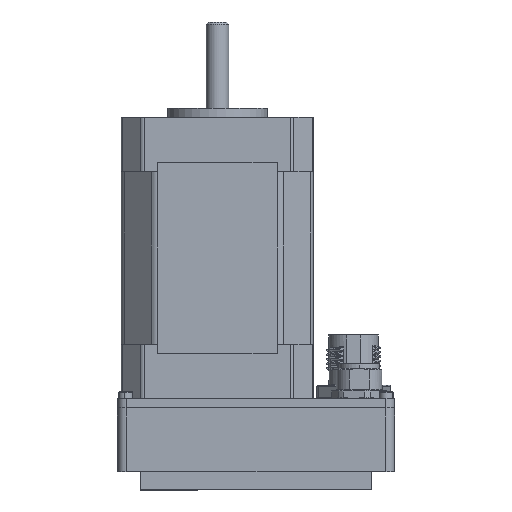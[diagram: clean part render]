
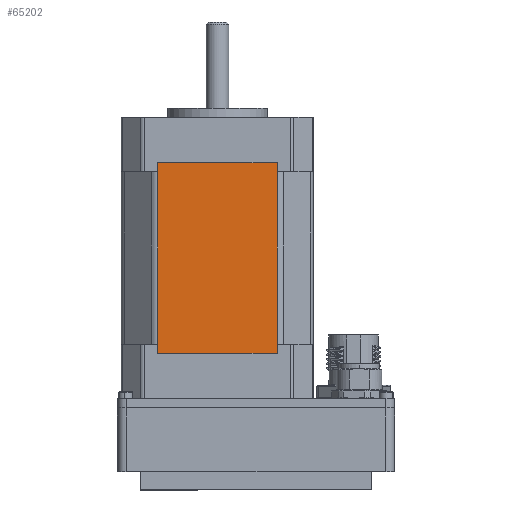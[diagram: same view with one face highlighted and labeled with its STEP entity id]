
A CAD part, top view. The second image highlights one B-rep face of the part: STEP entity #65202.
In plain terms, the highlighted planar face has unit normal (0, 0, 1) as drawn and (0, -1, 0) by its records, which use the part's own axes.
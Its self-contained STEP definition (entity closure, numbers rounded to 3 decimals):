
#511 = EDGE_CURVE ( 'NONE', #68145, #3984, #65905, .T. ) ;
#3008 = VECTOR ( 'NONE', #87536, 1000. ) ;
#3984 = VERTEX_POINT ( 'NONE', #37388 ) ;
#5775 = DIRECTION ( 'NONE',  ( 0., 0., -1. ) ) ;
#5966 = EDGE_CURVE ( 'NONE', #98228, #97304, #67943, .T. ) ;
#8225 = VECTOR ( 'NONE', #5775, 1000. ) ;
#8813 = ORIENTED_EDGE ( 'NONE', *, *, #92846, .F. ) ;
#9367 = ORIENTED_EDGE ( 'NONE', *, *, #66915, .T. ) ;
#12306 = DIRECTION ( 'NONE',  ( 0., 0., -1. ) ) ;
#14063 = VECTOR ( 'NONE', #12306, 1000. ) ;
#14829 = VECTOR ( 'NONE', #61747, 1000. ) ;
#14871 = CARTESIAN_POINT ( 'NONE',  ( -13.14, -21.14, 10. ) ) ;
#20623 = CARTESIAN_POINT ( 'NONE',  ( -13.14, -21.14, 12. ) ) ;
#22049 = CARTESIAN_POINT ( 'NONE',  ( -13.14, -21.14, 52. ) ) ;
#23461 = ORIENTED_EDGE ( 'NONE', *, *, #49959, .T. ) ;
#25852 = VECTOR ( 'NONE', #91201, 1000. ) ;
#26154 = LINE ( 'NONE', #43998, #8225 ) ;
#26749 = EDGE_CURVE ( 'NONE', #93451, #37511, #82112, .T. ) ;
#29723 = DIRECTION ( 'NONE',  ( -1., 0., 0. ) ) ;
#30449 = CARTESIAN_POINT ( 'NONE',  ( 13.14, -21.14, 12. ) ) ;
#31020 = CARTESIAN_POINT ( 'NONE',  ( 13.14, -21.14, 10. ) ) ;
#33652 = DIRECTION ( 'NONE',  ( 0., 0., -1. ) ) ;
#34480 = ORIENTED_EDGE ( 'NONE', *, *, #26749, .T. ) ;
#35735 = CARTESIAN_POINT ( 'NONE',  ( 13.14, -21.14, 52. ) ) ;
#35772 = EDGE_LOOP ( 'NONE', ( #34480, #90071, #80973, #8813, #78855, #9367, #51790, #23461 ) ) ;
#37388 = CARTESIAN_POINT ( 'NONE',  ( 13.14, -21.14, 12. ) ) ;
#37511 = VERTEX_POINT ( 'NONE', #31020 ) ;
#38031 = AXIS2_PLACEMENT_3D ( 'NONE', #22049, #75554, #29723 ) ;
#38206 = VECTOR ( 'NONE', #76274, 1000. ) ;
#40587 = LINE ( 'NONE', #30449, #38206 ) ;
#40760 = CARTESIAN_POINT ( 'NONE',  ( -13.14, -21.14, 50. ) ) ;
#42261 = CARTESIAN_POINT ( 'NONE',  ( 13.14, -21.14, 50. ) ) ;
#43998 = CARTESIAN_POINT ( 'NONE',  ( -13.14, -21.14, 12. ) ) ;
#45436 = CARTESIAN_POINT ( 'NONE',  ( -13.14, -21.14, 10. ) ) ;
#49479 = VERTEX_POINT ( 'NONE', #67797 ) ;
#49959 = EDGE_CURVE ( 'NONE', #97304, #93451, #26154, .T. ) ;
#51790 = ORIENTED_EDGE ( 'NONE', *, *, #5966, .T. ) ;
#55507 = VERTEX_POINT ( 'NONE', #84186 ) ;
#56291 = EDGE_CURVE ( 'NONE', #55507, #49479, #96253, .T. ) ;
#58204 = CARTESIAN_POINT ( 'NONE',  ( -13.14, -21.14, 52. ) ) ;
#59332 = LINE ( 'NONE', #64784, #3008 ) ;
#61747 = DIRECTION ( 'NONE',  ( 1., 0., 0. ) ) ;
#63415 = FACE_OUTER_BOUND ( 'NONE', #35772, .T. ) ;
#63499 = VECTOR ( 'NONE', #33652, 1000. ) ;
#64784 = CARTESIAN_POINT ( 'NONE',  ( -13.14, -21.14, 52. ) ) ;
#65202 = ADVANCED_FACE ( 'NONE', ( #63415 ), #90589, .F. ) ;
#65905 = LINE ( 'NONE', #72126, #63499 ) ;
#66915 = EDGE_CURVE ( 'NONE', #55507, #98228, #59332, .T. ) ;
#67797 = CARTESIAN_POINT ( 'NONE',  ( 13.14, -21.14, 52. ) ) ;
#67943 = LINE ( 'NONE', #58204, #14063 ) ;
#68145 = VERTEX_POINT ( 'NONE', #42261 ) ;
#69375 = CARTESIAN_POINT ( 'NONE',  ( -13.14, -21.14, 52. ) ) ;
#71851 = EDGE_CURVE ( 'NONE', #3984, #37511, #40587, .T. ) ;
#72126 = CARTESIAN_POINT ( 'NONE',  ( 13.14, -21.14, 52. ) ) ;
#75554 = DIRECTION ( 'NONE',  ( 0., 1., 0. ) ) ;
#76274 = DIRECTION ( 'NONE',  ( 0., 0., -1. ) ) ;
#76428 = VECTOR ( 'NONE', #96994, 1000. ) ;
#78844 = LINE ( 'NONE', #35735, #76428 ) ;
#78855 = ORIENTED_EDGE ( 'NONE', *, *, #56291, .F. ) ;
#80973 = ORIENTED_EDGE ( 'NONE', *, *, #511, .F. ) ;
#82112 = LINE ( 'NONE', #45436, #25852 ) ;
#84186 = CARTESIAN_POINT ( 'NONE',  ( -13.14, -21.14, 52. ) ) ;
#87536 = DIRECTION ( 'NONE',  ( 0., 0., -1. ) ) ;
#90071 = ORIENTED_EDGE ( 'NONE', *, *, #71851, .F. ) ;
#90589 = PLANE ( 'NONE',  #38031 ) ;
#91201 = DIRECTION ( 'NONE',  ( 1., 0., 0. ) ) ;
#92846 = EDGE_CURVE ( 'NONE', #49479, #68145, #78844, .T. ) ;
#93451 = VERTEX_POINT ( 'NONE', #14871 ) ;
#96253 = LINE ( 'NONE', #69375, #14829 ) ;
#96994 = DIRECTION ( 'NONE',  ( 0., 0., -1. ) ) ;
#97304 = VERTEX_POINT ( 'NONE', #20623 ) ;
#98228 = VERTEX_POINT ( 'NONE', #40760 ) ;
